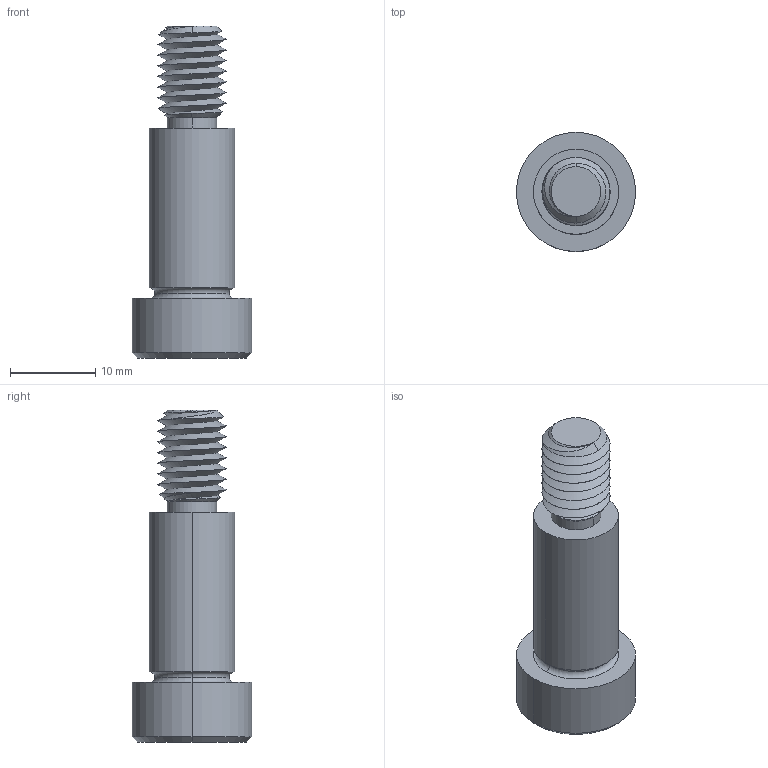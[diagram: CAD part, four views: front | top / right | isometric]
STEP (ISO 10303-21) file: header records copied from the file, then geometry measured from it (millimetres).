
FILE_DESCRIPTION (( 'STEP AP203' ), '1' );
FILE_NAME ('P0130.100-020-B8.step', '2021-11-09T21:52:46', ( '' ), ( '' ), 'SwSTEP 2.0', 'SolidWorks 2019', '' );
FILE_SCHEMA (( 'CONFIG_CONTROL_DESIGN' ));
Length unit declared in the file: millimetre
Products named in the file (1): P0130.100-020-B8
Bounding box: 14 x 14 x 39 mm (x, y, z)
Volume: 2937.9 mm3; surface area: 1806.3 mm2
Topology: 1 solids, 1 shells, 58 faces, 136 edges, 81 vertices
Faces by surface type: cylinder 21, plane 16, cone 15, torus 4, bspline 2
Entity records: 4214 total; most frequent: CARTESIAN_POINT 2911, ORIENTED_EDGE 268, DIRECTION 241, EDGE_CURVE 134, AXIS2_PLACEMENT_3D 97, VERTEX_POINT 81, EDGE_LOOP 61, ADVANCED_FACE 58
